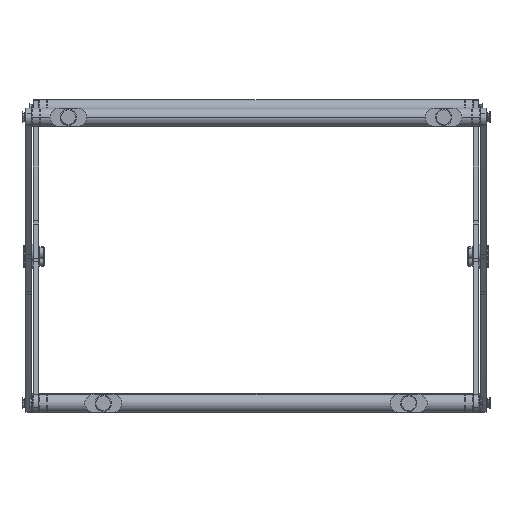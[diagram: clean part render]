
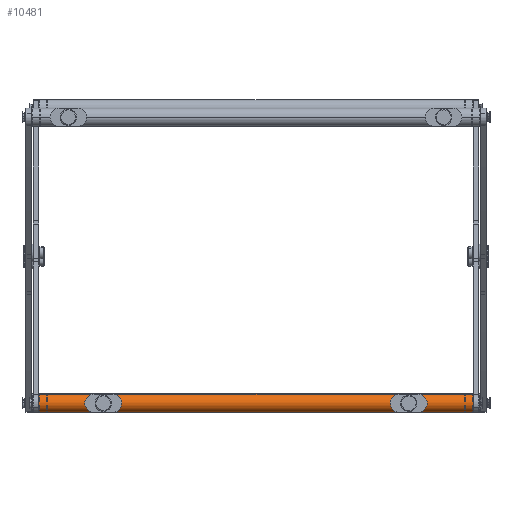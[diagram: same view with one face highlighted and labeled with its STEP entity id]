
A CAD part, front view. The second image highlights one B-rep face of the part: STEP entity #10481.
In plain terms, the highlighted cylindrical face has radius 10 mm (diameter 20 mm), a partial arc.
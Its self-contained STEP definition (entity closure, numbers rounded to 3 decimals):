
#75 = FACE_OUTER_BOUND ( 'NONE', #4599, .T. ) ;
#230 = CYLINDRICAL_SURFACE ( 'NONE', #11759, 10. ) ;
#679 = EDGE_CURVE ( 'NONE', #8902, #5188, #10273, .T. ) ;
#1092 = DIRECTION ( 'NONE',  ( 0., 0., 1. ) ) ;
#1117 = CARTESIAN_POINT ( 'NONE',  ( -10., 0., 472. ) ) ;
#1657 = DIRECTION ( 'NONE',  ( 1., 0., 0. ) ) ;
#2114 = ORIENTED_EDGE ( 'NONE', *, *, #679, .F. ) ;
#2259 = LINE ( 'NONE', #2336, #14263 ) ;
#2310 = DIRECTION ( 'NONE',  ( 0., 0., -1. ) ) ;
#2336 = CARTESIAN_POINT ( 'NONE',  ( -10., 0., 472. ) ) ;
#2421 = CARTESIAN_POINT ( 'NONE',  ( 0., 0., 472. ) ) ;
#3500 = DIRECTION ( 'NONE',  ( 1., 0., 0. ) ) ;
#4494 = ORIENTED_EDGE ( 'NONE', *, *, #9822, .T. ) ;
#4517 = EDGE_CURVE ( 'NONE', #5746, #8902, #4919, .T. ) ;
#4599 = EDGE_LOOP ( 'NONE', ( #2114, #12949, #6033, #4494 ) ) ;
#4919 = CIRCLE ( 'NONE', #13327, 10. ) ;
#5188 = VERTEX_POINT ( 'NONE', #9864 ) ;
#5746 = VERTEX_POINT ( 'NONE', #1117 ) ;
#6033 = ORIENTED_EDGE ( 'NONE', *, *, #10385, .T. ) ;
#7533 = CARTESIAN_POINT ( 'NONE',  ( 0., 0., 0. ) ) ;
#8902 = VERTEX_POINT ( 'NONE', #14838 ) ;
#9372 = CARTESIAN_POINT ( 'NONE',  ( 0., 0., 472. ) ) ;
#9451 = DIRECTION ( 'NONE',  ( 0., 0., -1. ) ) ;
#9822 = EDGE_CURVE ( 'NONE', #11484, #5188, #15246, .T. ) ;
#9864 = CARTESIAN_POINT ( 'NONE',  ( 10., 0., 0. ) ) ;
#10242 = AXIS2_PLACEMENT_3D ( 'NONE', #7533, #12289, #1657 ) ;
#10273 = LINE ( 'NONE', #15054, #13775 ) ;
#10385 = EDGE_CURVE ( 'NONE', #5746, #11484, #2259, .T. ) ;
#10481 = ADVANCED_FACE ( 'NONE', ( #75 ), #230, .T. ) ;
#10605 = DIRECTION ( 'NONE',  ( -1., 0., 0. ) ) ;
#11484 = VERTEX_POINT ( 'NONE', #13063 ) ;
#11759 = AXIS2_PLACEMENT_3D ( 'NONE', #2421, #9451, #10605 ) ;
#12289 = DIRECTION ( 'NONE',  ( 0., 0., 1. ) ) ;
#12949 = ORIENTED_EDGE ( 'NONE', *, *, #4517, .F. ) ;
#13063 = CARTESIAN_POINT ( 'NONE',  ( -10., 0., 0. ) ) ;
#13327 = AXIS2_PLACEMENT_3D ( 'NONE', #9372, #1092, #3500 ) ;
#13775 = VECTOR ( 'NONE', #2310, 1000. ) ;
#14140 = DIRECTION ( 'NONE',  ( 0., 0., -1. ) ) ;
#14263 = VECTOR ( 'NONE', #14140, 1000. ) ;
#14838 = CARTESIAN_POINT ( 'NONE',  ( 10., 0., 472. ) ) ;
#15054 = CARTESIAN_POINT ( 'NONE',  ( 10., 0., 472. ) ) ;
#15246 = CIRCLE ( 'NONE', #10242, 10. ) ;
